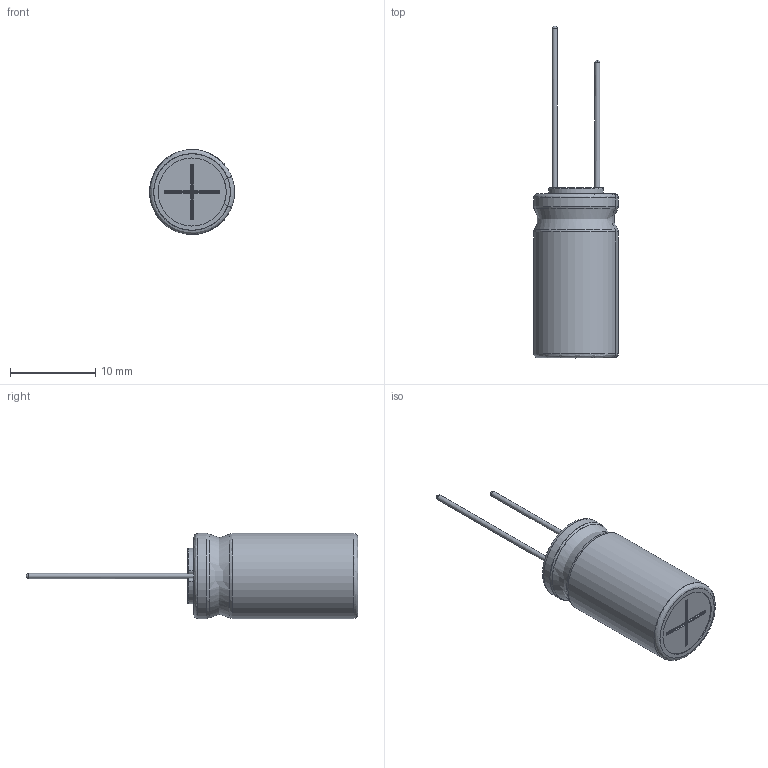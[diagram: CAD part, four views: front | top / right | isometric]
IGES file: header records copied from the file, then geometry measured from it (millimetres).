
Start section: JAMA-IS VERSION  1.0
Bounding box: 9.99 x 39 x 10 mm (x, y, z)
Surface area: 2110.1 mm2 (no closed solid volume)
Topology: 0 solids, 0 shells, 115 faces, 1315 edges, 1296 vertices
Faces by surface type: bspline 115
